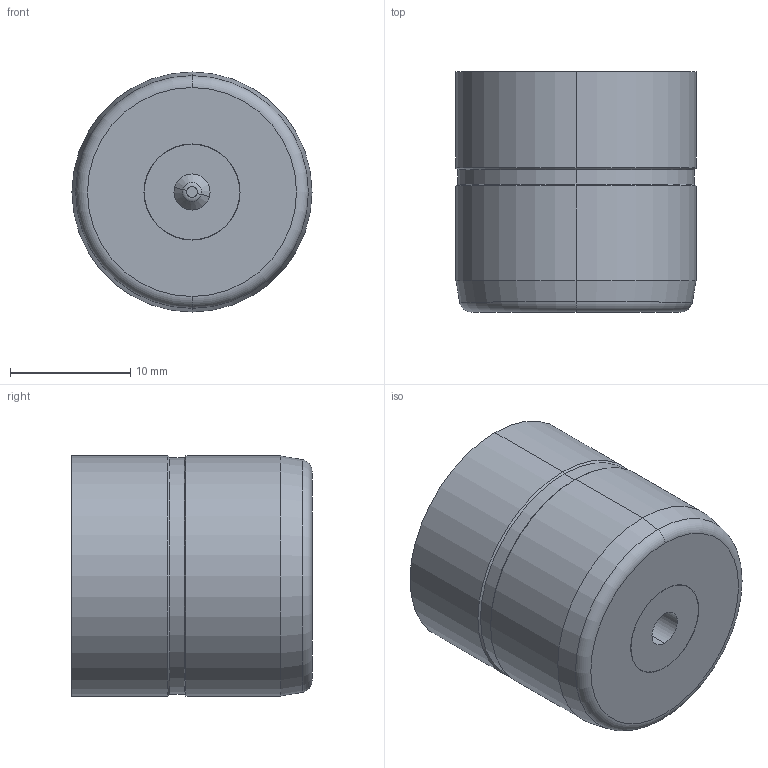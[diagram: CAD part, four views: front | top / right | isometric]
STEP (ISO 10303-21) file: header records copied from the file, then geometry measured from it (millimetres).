
FILE_DESCRIPTION (( 'STEP AP214' ), '1' );
FILE_NAME ('FP 200710-21.STEP', '2020-08-13T09:36:34', ( '' ), ( '' ), 'SwSTEP 2.0', 'SolidWorks 2019', '' );
FILE_SCHEMA (( 'AUTOMOTIVE_DESIGN' ));
Length unit declared in the file: millimetre
Products named in the file (6): DFA 168700-3; DFP 200710-14-5; DFA 168700-2 comprimido; DFP 168700-1; DIA 1007SF; FP 200710-21
Assembly tree (5 placements, depth 2):
  FP 200710-21
    DFP 200710-14-5
    DIA 1007SF
    DFA 168700-3
    DFA 168700-2 comprimido
    DFP 168700-1
Bounding box: 20 x 20 x 20 mm (x, y, z)
Volume: 5985 mm3; surface area: 3306.5 mm2
Topology: 5 solids, 5 shells, 412 faces, 1067 edges, 696 vertices
Faces by surface type: bspline 187, plane 142, cylinder 37, cone 36, torus 10
Entity records: 22919 total; most frequent: CARTESIAN_POINT 13798, ORIENTED_EDGE 2134, DIRECTION 1257, EDGE_CURVE 1067, VERTEX_POINT 696, LINE 539, VECTOR 539, EDGE_LOOP 453
